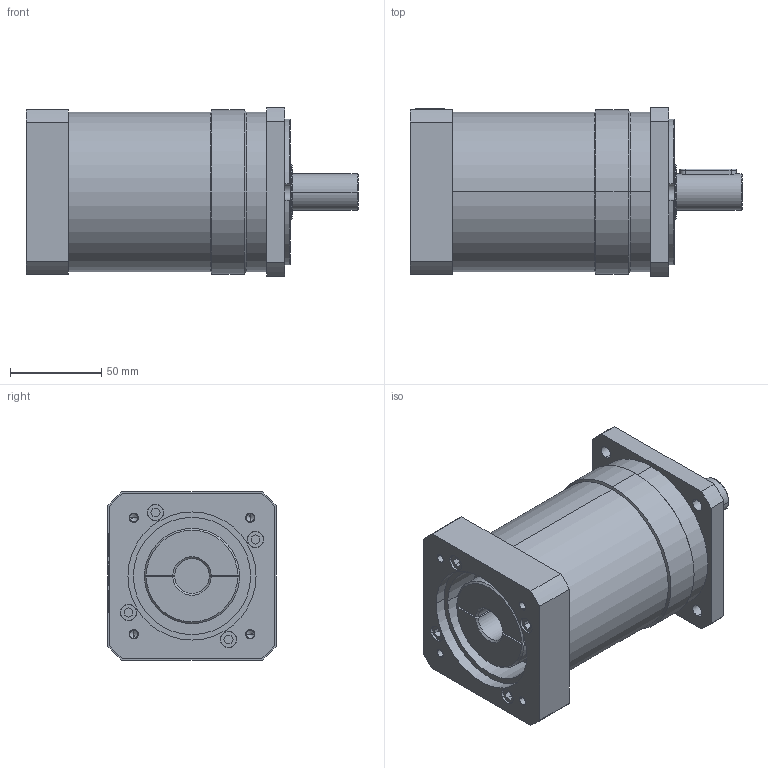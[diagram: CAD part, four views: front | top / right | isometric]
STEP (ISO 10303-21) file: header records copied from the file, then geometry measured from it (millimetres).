
FILE_DESCRIPTION((''),'2;1');
FILE_NAME('PLF090-L2','2016-03-28T',('Administrator'),(''),'PRO/ENGINEER BY PARAMETRIC TECHNOLOGY CORPORATION, 2012480','PRO/ENGINEER BY PARAMETRIC TECHNOLOGY CORPORATION, 2012480','');
FILE_SCHEMA(('CONFIG_CONTROL_DESIGN'));
Length unit declared in the file: millimetre
Products named in the file (1): PLF090-L2
Bounding box: 181.5 x 92 x 92 mm (x, y, z)
Volume: 886961.7 mm3; surface area: 84022.8 mm2
Topology: 1 solids, 6 shells, 264 faces, 657 edges, 427 vertices
Faces by surface type: plane 138, cylinder 96, cone 20, torus 10
Entity records: 7920 total; most frequent: CARTESIAN_POINT 1432, DIRECTION 1389, ORIENTED_EDGE 1274, EDGE_CURVE 647, AXIS2_PLACEMENT_3D 497, VERTEX_POINT 427, VECTOR 395, LINE 395
